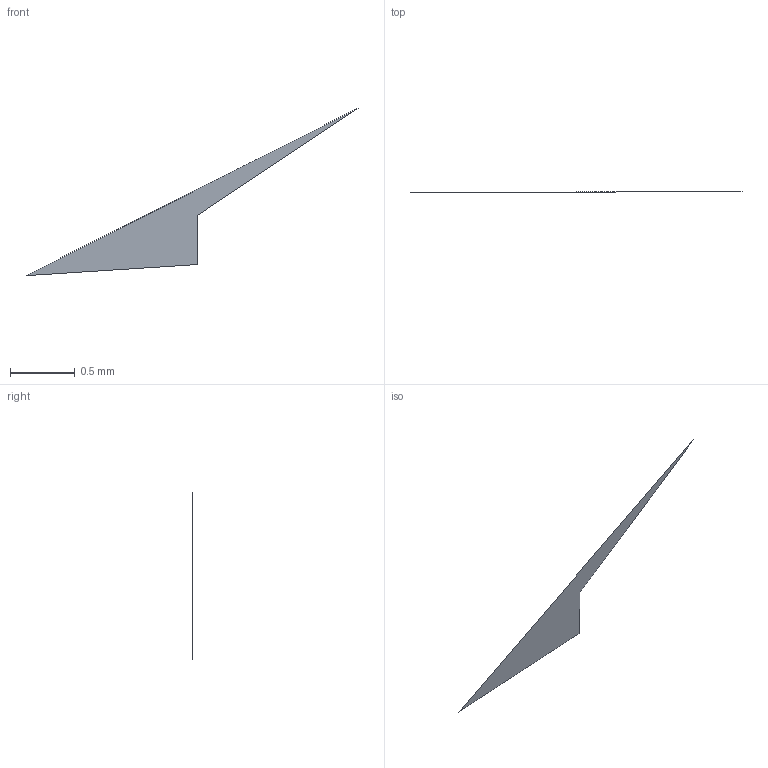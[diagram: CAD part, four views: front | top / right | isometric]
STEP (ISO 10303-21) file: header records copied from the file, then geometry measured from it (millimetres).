
FILE_DESCRIPTION(/* description */ ('STEP AP242 Edition 2','CAx-IF Rec.Pracs.---Representation and Presentation of Product Manufacturing Information (PMI)---4.0---2014-10-13','CAx-IF Rec.Pracs.---3D Tessellated Geometry---0.4---2014-09-14','2;1','CAx-IF Rec.Pracs.---User Defined Attributes---1.5---2016-08-15'),/* implementation_level */ '2;1');
FILE_NAME(/* name */ 'Assembly 1 - Part 37',/* time_stamp */ '2026-03-29T21:14:57Z',/* author */ (''),/* organization */ (''),/* preprocessor_version */ 'ST-DEVELOPER v20',/* originating_system */ 'ONSHAPE BY PTC INC, 1.212',/* authorisation */ ' ');
FILE_SCHEMA (('AP242_MANAGED_MODEL_BASED_3D_ENGINEERING_MIM_LF { 1 0 10303 442 3 1 4 }'));
Length unit declared in the file: metre
Products named in the file (1): Part 37
Bounding box: 2.56 x 0 x 1.29 mm (x, y, z)
Surface area: 1 mm2 (no closed solid volume)
Topology: 0 solids, 1 shells, 1 faces, 0 edges, 0 vertices
Faces by surface type: other 1
Entity records: 31 total; most frequent: DIRECTION 2, SHAPE_REPRESENTATION_RELATIONSHIP 1, TESSELLATED_SHAPE_REPRESENTATION 1, STYLED_ITEM 1, PRESENTATION_STYLE_ASSIGNMENT 1, SURFACE_STYLE_USAGE 1, SURFACE_SIDE_STYLE 1, SURFACE_STYLE_FILL_AREA 1
